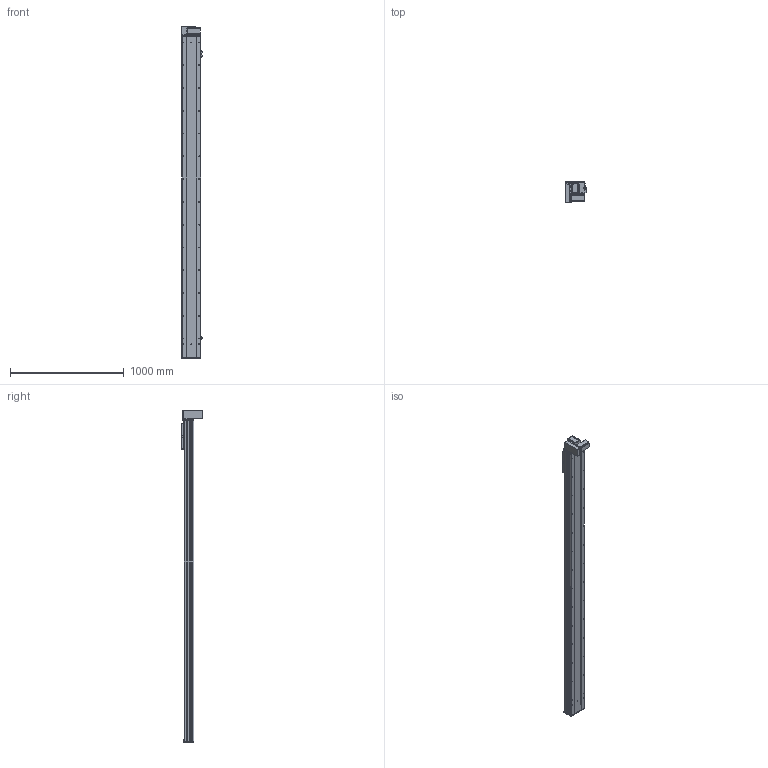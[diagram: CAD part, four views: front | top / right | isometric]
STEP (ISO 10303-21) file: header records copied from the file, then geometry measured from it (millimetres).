
FILE_DESCRIPTION (( 'STEP AP203' ), '1' );
FILE_NAME ('Y170CB-D105-S2500-BM-P400W.STEP', '2020-02-20T07:43:50', ( '微软用户' ), ( '微软中国' ), 'SwSTEP 2.0', 'SolidWorks 2017', '' );
FILE_SCHEMA (( 'CONFIG_CONTROL_DESIGN' ));
Length unit declared in the file: millimetre
Products named in the file (18): Y1埴倛裔; 70CB-耜裔啣-; 17B-耜蚾蟀諉啣----; 70C--詩湍揤踡え-; 00B-俋欶BM--163; 70CB--耜裔; 70B喘謫眊----; 70C-雄赽釱-奻-; B-源倛裔啣; Y170CB-D105-S2500-BM-P400W; 0C--雄赽釱俋欶-170; 0B-萇儂楊擘啣; 70CB-詩湍--; san松下电机400不带刹车----; Y100-135俋离換覜ん--; 70CB-掛极-; Y170CB-陔俋离換覜結え---; --70CB --喘謫眊楊擘啣-
Assembly tree (21 placements, depth 2):
  Y170CB-D105-S2500-BM-P400W
    B-源倛裔啣
    0B-萇儂楊擘啣
    san松下电机400不带刹车----
    70CB-掛极-
    --70CB --喘謫眊楊擘啣-
    70CB-耜裔啣-  x2
    70C--詩湍揤踡え-  x2
    70CB--耜裔
    70C-雄赽釱-奻-
    0C--雄赽釱俋欶-170
    70CB-詩湍--
    Y100-135俋离換覜ん--  x3
    Y170CB-陔俋离換覜結え---
    Y1埴倛裔
    17B-耜蚾蟀諉啣----
    00B-俋欶BM--163
    70B喘謫眊----
Bounding box: 183.5 x 184 x 2916 mm (x, y, z)
Volume: 12444921.4 mm3; surface area: 4494437.2 mm2
Topology: 21 solids, 21 shells, 1071 faces, 2885 edges, 1914 vertices
Faces by surface type: cylinder 585, plane 462, cone 24
Entity records: 34372 total; most frequent: CARTESIAN_POINT 6336, DIRECTION 5594, ORIENTED_EDGE 5252, EDGE_CURVE 2626, AXIS2_PLACEMENT_3D 2068, VERTEX_POINT 1744, LINE 1458, VECTOR 1458
